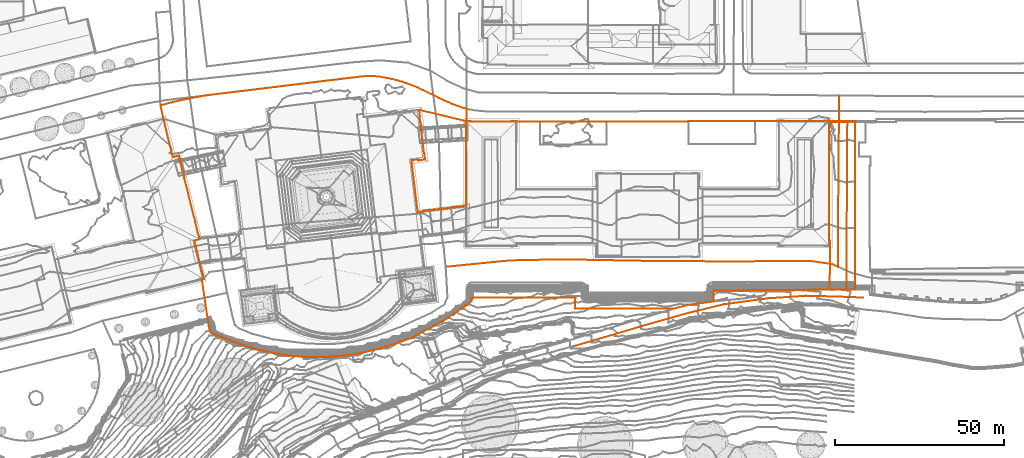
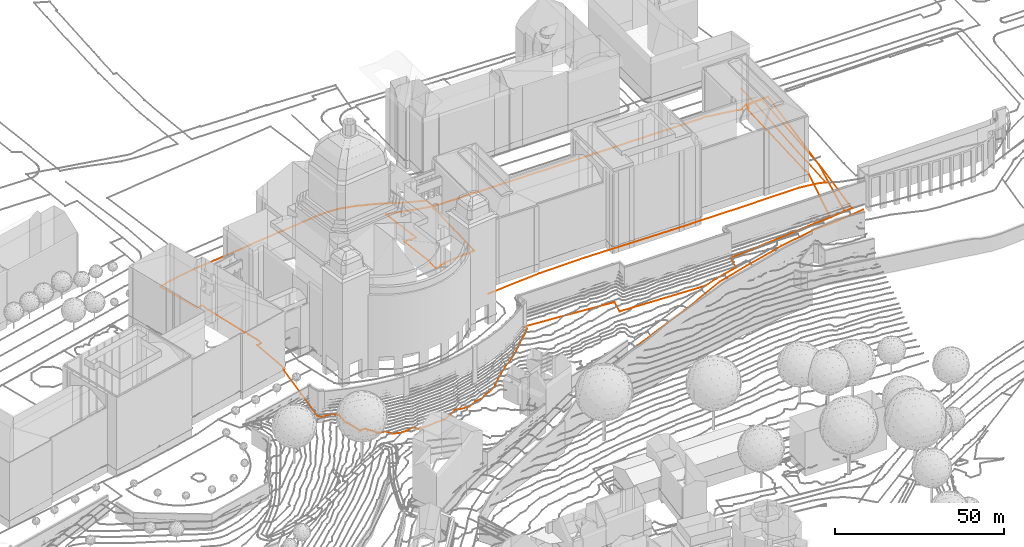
# Not in any storey, part 195 of 477: 6 civil elements, 1 geographic element.
"""IFC4 model written with IfcOpenShell, lengths in metres."""

import ifcopenshell
import ifcopenshell.guid

model = None  # the IFC model being written
_history = None  # IfcOwnerHistory: only IFC2X3 demands one
_inside = {}  # id of a spatial element -> (the spatial element, [elements in it])
_under = {}  # id of a project, library or spatial element -> (it, [spatial elements below it])
_declared = {}  # id of a project -> (the project, [libraries it declares])
_typed = {}  # id of a type object -> (the type object, [elements of that type])
_made_of = {}  # id of a material, layer set ... -> (it, [elements and type objects made of it])


def new_model(schema):
    """Start an empty IFC model of exactly this schema.

    Asked for "IFC4X3", IfcOpenShell would pick the latest addendum, in which some entities
    have other attributes; the version numbers below select the first issue.
    IFC2X3 requires an IfcOwnerHistory on every rooted entity: one is made here for all.
    """
    global model, _history
    if schema == "IFC4X3":
        model = ifcopenshell.file(schema_version=(4, 3, 0, 0))
    else:
        model = ifcopenshell.file(schema=schema)
    _inside.clear()
    _under.clear()
    _declared.clear()
    _typed.clear()
    _made_of.clear()
    _history = None
    if model.schema == "IFC2X3":
        org = make("IfcOrganization", Name="unknown")
        user = make(
            "IfcPersonAndOrganization",
            ThePerson=make("IfcPerson", FamilyName="unknown"),
            TheOrganization=org,
        )
        app = make(
            "IfcApplication",
            ApplicationDeveloper=org,
            Version="unknown",
            ApplicationFullName="unknown",
            ApplicationIdentifier="unknown",
        )
        _history = make(
            "IfcOwnerHistory",
            OwningUser=user,
            OwningApplication=app,
            ChangeAction="ADDED",
            CreationDate=0,
        )
    return model


def make(cls, **values):
    """One entity of the class cls with the attributes given. An attribute that is None is left unset."""
    return model.create_entity(
        cls, **{name: value for name, value in values.items() if value is not None}
    )


def entity(cls, *values):
    """Any entity or typed value of the class cls, its attributes in the order of the schema. None: left unset."""
    e = model.create_entity(cls)
    for i, value in enumerate(values):
        if value is not None:
            e[i] = value
    return e


def rooted(cls, **values):
    """An entity with a GlobalId (a new one), such as an element, a storey or a relation."""
    return make(cls, GlobalId=ifcopenshell.guid.new(), OwnerHistory=_history, **values)


def si_unit(unit_type, name, prefix=None):
    """IfcSIUnit, for example si_unit("LENGTHUNIT", "METRE", prefix="MILLI")."""
    return make("IfcSIUnit", UnitType=unit_type, Prefix=prefix, Name=name)


def assignment(units):
    """IfcUnitAssignment: the units of a project."""
    return None if units is None else make("IfcUnitAssignment", Units=units)


def point(xyz):
    """IfcCartesianPoint."""
    return None if xyz is None else make("IfcCartesianPoint", Coordinates=xyz)


def direction(xyz):
    """IfcDirection."""
    return None if xyz is None else make("IfcDirection", DirectionRatios=xyz)


def frame(location, z_axis=None, x_axis=None):
    """IfcAxis2Placement3D, a coordinate frame: its origin and axes. An axis left out is left unset."""
    return make(
        "IfcAxis2Placement3D",
        Location=point(location),
        Axis=direction(z_axis),
        RefDirection=direction(x_axis),
    )


def origin_with_axes():
    """The frame at (0, 0, 0) with the z axis (0, 0, 1) and the x axis (1, 0, 0) written out."""
    return frame((0.0, 0.0, 0.0), z_axis=(0.0, 0.0, 1.0), x_axis=(1.0, 0.0, 0.0))


def place(relative_to, where):
    """IfcLocalPlacement: puts the frame where relative to a parent placement (None: the world)."""
    return make(
        "IfcLocalPlacement", PlacementRelTo=relative_to, RelativePlacement=where
    )


def context(
    kind, dimensions, precision=None, world=None, true_north=None, identifier=None
):
    """IfcGeometricRepresentationContext, for example the 3D "Model" context."""
    return make(
        "IfcGeometricRepresentationContext",
        ContextIdentifier=identifier,
        ContextType=kind,
        CoordinateSpaceDimension=dimensions,
        Precision=precision,
        WorldCoordinateSystem=world,
        TrueNorth=true_north,
    )


def subcontext(parent, identifier, kind, view, scale=None):
    """IfcGeometricRepresentationSubContext, for example "Body" below "Model"."""
    return make(
        "IfcGeometricRepresentationSubContext",
        ContextIdentifier=identifier,
        ContextType=kind,
        ParentContext=parent,
        TargetScale=scale,
        TargetView=view,
    )


def project(units=None, contexts=None):
    """IfcProject with its units and contexts."""
    return rooted(
        "IfcProject",
        Name="project",
        RepresentationContexts=contexts,
        UnitsInContext=assignment(units),
    )


def spatial(cls, under=None, at=None, **own):
    """A site, building, storey or space (cls), placed at a placement, below another one or the project."""
    s = rooted(cls, ObjectPlacement=at, **own)
    if under is not None:
        _under.setdefault(under.id(), (under, []))[1].append(s)
    return s


def shape(context_of_items, identifier, shape_type, items):
    """IfcShapeRepresentation: the items that make up one representation, for example the "Body"."""
    return make(
        "IfcShapeRepresentation",
        ContextOfItems=context_of_items,
        RepresentationIdentifier=identifier,
        RepresentationType=shape_type,
        Items=items,
    )


def made_of(thing, what):
    """Note that an element or type object is made of a material, layer set ...; save() writes the relation."""
    if what is not None:
        _made_of.setdefault(what.id(), (what, []))[1].append(thing)
    return thing


def element(
    cls,
    number,
    at=None,
    inside=None,
    cuts=None,
    type_object=None,
    material=None,
    context=None,
    identifier="Body",
    shape_type=None,
    held_by="IfcProductDefinitionShape",
    body=None,
    shapes=None,
    **own,
):
    """One element of the class cls, such as IfcWall. Its Tag is "e" and its number.

    at: its placement. inside: the storey or other place that contains it. cuts: it is an
    opening in that element (IfcRelVoidsElement). A single representation is given by context,
    identifier, shape_type and body (its items); several are given by shapes. held_by: the class
    of the entity that holds the representations. save() writes the other relations.
    """
    e = rooted(cls, Tag="e%d" % number, ObjectPlacement=at, **own)
    if body is not None:
        shapes = [shape(context, identifier, shape_type, body)]
    if shapes is not None:
        e.Representation = make(held_by, Representations=shapes)
    if inside is not None:
        _inside.setdefault(inside.id(), (inside, []))[1].append(e)
    if cuts is not None:
        rooted(
            "IfcRelVoidsElement", RelatingBuildingElement=cuts, RelatedOpeningElement=e
        )
    if type_object is not None:
        _typed.setdefault(type_object.id(), (type_object, []))[1].append(e)
    return made_of(e, material)


def aggregate(whole, parts):
    """IfcRelAggregates: a whole, such as a stair, and the parts it consists of."""
    return rooted("IfcRelAggregates", RelatingObject=whole, RelatedObjects=parts)


def save(model, path):
    """Write the relations noted so far, then the file.

    IfcRelAggregates (storeys below a building ...), IfcRelContainedInSpatialStructure (elements
    in a storey), IfcRelDefinesByType, IfcRelAssociatesMaterial and IfcRelDeclares: one each for
    every whole, place, type object, material and project.
    """
    for whole, parts in _under.values():
        aggregate(whole, parts)
    for where, things in _inside.values():
        rooted(
            "IfcRelContainedInSpatialStructure",
            RelatedElements=things,
            RelatingStructure=where,
        )
    for kind, things in _typed.values():
        rooted("IfcRelDefinesByType", RelatedObjects=things, RelatingType=kind)
    for what, things in _made_of.values():
        rooted("IfcRelAssociatesMaterial", RelatedObjects=things, RelatingMaterial=what)
    for by, libraries in _declared.values():
        rooted("IfcRelDeclares", RelatingContext=by, RelatedDefinitions=libraries)
    model.write(path)


model = new_model("IFC4")

# Units and contexts
model_context = context("Model", 3, precision=1e-05, world=origin_with_axes())
body_context = subcontext(model_context, "Body", "Model", "MODEL_VIEW")
ifc_project = project(units=[si_unit("AREAUNIT", "SQUARE_METRE"), si_unit("LENGTHUNIT", "METRE")], contexts=[model_context])

# Sites
site_1_placement = place(None, origin_with_axes())
site_1 = spatial("IfcSite", under=ifc_project, at=site_1_placement, Name="Topoexport Site")
site_2_placement = place(site_1_placement, origin_with_axes())
site_2 = spatial("IfcSite", under=site_1, at=site_2_placement, Name="TPX_ROADS")

# Civil elements
civil_element_1_placement = place(site_2_placement, frame((605.3857320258, 343.1167327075, 521.97), z_axis=(0.0, 0.0, 1.0), x_axis=(1.0, 0.0, 0.0)))
element("IfcCivilElement", 1, at=civil_element_1_placement, inside=site_2, Name="Road 27", ObjectType="ROAD", context=body_context, shape_type="GeometricCurveSet", body=[
    entity("IfcGeometricCurveSet", [entity("IfcIndexedPolyCurve", entity("IfcCartesianPointList3D", [[0.0, 0.0, 0.0], [19.3819999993, 5.7279998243, 2.366], [33.7729999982, 9.8389997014, 5.149], [44.4510000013, 12.3989996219, 5.664], [57.5649999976, 14.167999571, 7.232], [68.5960000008, 14.8969995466, 8.486], [77.0260000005, 14.688999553, 9.123], [85.5599999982, 14.3769995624, 10.349]]))]),
])
civil_element_2_placement = place(site_2_placement, frame((683.4917320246, 366.5697319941, 539.193), z_axis=(0.0, 0.0, 1.0), x_axis=(1.0, 0.0, 0.0)))
element("IfcCivilElement", 2, at=civil_element_2_placement, inside=site_2, Name="Road 34", ObjectType="ROAD", context=body_context, shape_type="GeometricCurveSet", body=[
    entity("IfcGeometricCurveSet", [entity("IfcIndexedPolyCurve", entity("IfcCartesianPointList3D", [[0.0, 0.0, 0.0], [0.0859999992, 20.9669993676, 1.222], [0.262000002, 42.5919987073, 2.96], [0.2640000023, 50.6309984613, 3.155]]))]),
])
civil_element_3_placement = place(site_2_placement, frame((675.357732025, 368.3087319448, 539.193), z_axis=(0.0, 0.0, 1.0), x_axis=(1.0, 0.0, 0.0)))
element("IfcCivilElement", 3, at=civil_element_3_placement, inside=site_2, Name="Road 35", ObjectType="ROAD", context=body_context, shape_type="GeometricCurveSet", body=[
    entity("IfcGeometricCurveSet", [entity("IfcIndexedPolyCurve", entity("IfcCartesianPointList3D", [[0.0, 0.0, 0.0], [6.4510000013, -0.9699999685, 0.0], [8.1339999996, -1.7389999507, 0.0]]))]),
])
civil_element_4_placement = place(site_2_placement, frame((567.5617320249, 366.5807319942, 539.484), z_axis=(0.0, 0.0, 1.0), x_axis=(1.0, 0.0, 0.0)))
element("IfcCivilElement", 4, at=civil_element_4_placement, inside=site_2, Name="Road 193", ObjectType="ROAD", context=body_context, shape_type="GeometricCurveSet", body=[
    entity("IfcGeometricCurveSet", [entity("IfcIndexedPolyCurve", entity("IfcCartesianPointList3D", [[0.0, 0.0, 0.0], [19.0139999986, 1.8909999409, -0.291], [34.2290000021, 2.207999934, -0.291], [63.7899999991, 1.6629999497, -0.291], [86.5150000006, 1.5989999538, -0.291], [107.7960000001, 1.7279999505, -0.291]]))]),
])

# Site
site_3_placement = place(site_1_placement, origin_with_axes())
site_3 = spatial("IfcSite", under=site_1, at=site_3_placement, Name="TPX_ROADS_OUTLINES")

# Civil elements
civil_element_5_placement = place(site_3_placement, frame((557.4217320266, 398.1027160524, 542.8183355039), z_axis=(0.0, 0.0, 1.0), x_axis=(1.0, 0.0, 0.0)))
element("IfcCivilElement", 5, at=civil_element_5_placement, inside=site_3, Name="Roads Outline 41", ObjectType="ROAD", context=body_context, shape_type="GeometricCurveSet", body=[
    entity("IfcGeometricCurveSet", [entity("IfcIndexedPolyCurve", entity("IfcCartesianPointList3D", [[0.0, 0.0, 0.0], [2.0320000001, 0.236, 0.0039515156], [2.071, -0.058, 0.0014803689], [4.0580000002, 0.173, 0.0102820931], [3.8140000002, 2.1629999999, 0.0617243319], [3.719, 2.152, 0.0604411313], [3.358, 5.0970000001, 0.1121613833], [2.7800000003, 9.8049999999, 0.1841826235], [2.4070000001, 12.852, 0.1452810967], [2.5060000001, 12.8640000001, 0.1405928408], [2.2600000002, 14.8540000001, 0.0893084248], [15.963, 11.5330000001, 0.1007748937], [15.9590000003, 10.6440000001, 0.1038180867], [15.9709999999, 10.0319999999, 0.1059552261], [16.1070000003, 10.034, 0.1054882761], [16.1090000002, 9.665, 0.106863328], [16.1240000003, 7.01, 0.1141178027], [16.128, 5.8999999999, 0.1186452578], [16.0980000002, -13.4269999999, -0.7488889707], [15.2890000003, -13.5179999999, -0.7290250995], [15.301, -13.611, -0.7476557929], [13.4130000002, -13.8359999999, -0.6844900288], [13.4010000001, -13.7409999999, -0.6657376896], [12.307, -13.8770000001, -0.5726440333], [12.3149999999, -13.976, -0.5912786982], [11.7230000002, -14.048, -0.5144447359], [5.4700000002, -14.7919999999, -0.3845615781], [4.8840000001, -14.8559999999, -0.5246849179], [4.8700000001, -14.7620000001, -0.5082793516], [3.8030000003, -14.8899999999, -0.6959330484], [3.8160000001, -15.0190000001, -0.7154515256], [3.5320000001, -15.047, -0.7391307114], [3.486, -15.0560000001, -0.7429471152], [3.4890000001, -15.1769999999, -0.763911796], [1.844, -15.371, -0.829245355], [1.4640000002, -12.1950000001, -0.204273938], [0.0, 0.0, 0.0]]))]),
])
civil_element_6_placement = place(site_3_placement, frame((680.8657320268, 408.2987160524, 541.1576356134), z_axis=(0.0, 0.0, 1.0), x_axis=(1.0, 0.0, 0.0)))
element("IfcCivilElement", 6, at=civil_element_6_placement, inside=site_3, Name="Roads Outline 99", ObjectType="ROAD", context=body_context, shape_type="GeometricCurveSet", body=[
    entity("IfcGeometricCurveSet", [entity("IfcIndexedPolyCurve", entity("IfcCartesianPointList3D", [[0.0, 0.0, 0.0], [0.3999999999, 0.0009999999, 0.4254257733], [0.3999999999, 0.5009999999, 0.8379186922], [0.2000000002, 0.5, 0.6336866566], [0.199, 1.0220000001, 0.9736481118], [5.3790000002, 1.0330000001, 1.2621026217], [5.179, -33.1399999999, -1.4936482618], [5.0899999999, -48.409, -9.1633480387], [0.176, -48.4510000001, -9.6105220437], [0.2510000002, -35.5449999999, -1.5774985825], [0.2450000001, -34.02, -1.5249600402], [0.0449999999, -34.0209999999, -1.5177520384], [0.0, 0.0, 0.0]]))]),
])

# Site
site_4_placement = place(site_1_placement, origin_with_axes())
site_4 = spatial("IfcSite", under=site_1, at=site_4_placement, Name="TPX_CADASTRES")

# Geographic element
geographic_element_placement = place(site_4_placement, frame((483.2487320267, 414.3417160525, 542.7580482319), z_axis=(0.0, 0.0, 1.0), x_axis=(1.0, 0.0, 0.0)))
element("IfcGeographicElement", 7, at=geographic_element_placement, inside=site_4, Name="Cadastre 45", PredefinedType="NOTDEFINED", context=body_context, shape_type="GeometricCurveSet", body=[
    entity("IfcGeometricCurveSet", [entity("IfcIndexedPolyCurve", entity("IfcCartesianPointList3D", [[0.0, 0.0, 0.0], [3.3500000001, 0.8419999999, 0.0138647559], [6.719, 1.6069999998, -0.0067457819], [10.105, 2.294, -0.0096220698], [13.5049999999, 2.902, -0.0576532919], [58.48, 8.3729999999, -0.0057405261], [59.8560000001, 8.53, -0.058167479], [61.2379999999, 8.6069999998, -0.0725764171], [62.6230000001, 8.605, -0.0747764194], [64.0049999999, 8.523, -0.0613407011], [65.4390000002, 8.314, -0.0028222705], [66.8659999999, 8.058, 0.0104431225], [68.2830000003, 7.7549999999, -0.0553828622], [69.838, 7.368, -0.0147337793], [71.3769999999, 6.923, -0.0085167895], [72.898, 6.4199999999, -0.1160543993], [74.5049999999, 5.8189999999, -0.0456107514], [76.0870000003, 5.155, -0.0016394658], [77.6409999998, 4.4279999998, 0.0696917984], [82.412, 2.078, 0.0736572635], [83.6779999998, 1.4719999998, 0.0821574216], [84.9610000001, 0.9009999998, 0.0943667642], [86.2590000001, 0.368, 0.1525958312], [87.6529999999, -0.1600000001, 0.1571946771], [89.0630000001, -0.6459999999, 0.0949322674], [90.486, -1.0900000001, 0.0030488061], [90.5300000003, -4.713, 0.1595459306], [91.639, -4.706, 0.1572937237], [91.642, -4.8470000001, 0.1578624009], [103.7919999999, -4.844, 0.0914316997], [103.7940000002, -4.699, 0.0970099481], [105.2889999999, -4.6950000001, 0.0702488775], [105.2910000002, -4.845, 0.0692599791], [182.6460000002, -4.72, -0.2040830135], [182.6460000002, -4.5700000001, -0.2041746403], [184.1329999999, -4.5660000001, -0.2031488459], [184.1430000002, -4.719, -0.2011182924], [196.3059999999, -4.6950000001, -1.7056571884], [196.3130000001, -4.551, -1.6362175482], [197.8160000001, -4.5530000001, -0.3928984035], [197.8160000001, -4.7380000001, -0.4416574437], [205.2340000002, -4.7210000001, -0.3159705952], [205.2659999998, -54.4300000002, -10.5254803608], [163.4649999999, -54.7880000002, -13.6588349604], [163.48, -58.003, -15.1992461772], [155.861, -59.0190000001, -16.0577943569], [151.9509999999, -60.0690000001, -16.4666310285], [122.5240000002, -60.061, -15.4878486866], [122.6239999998, -56.791, -14.150309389], [91.9560000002, -56.7830000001, -12.1934063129], [91.9760000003, -57.9040000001, -12.3409897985], [90.2170000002, -59.314, -13.3559025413], [90.1069999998, -59.1540000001, -13.3340481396], [88.466, -60.385, -14.1924730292], [86.79, -61.568, -14.9890292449], [85.0789999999, -62.702, -15.851732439], [83.3370000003, -63.7850000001, -16.5759969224], [80.673, -65.2690000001, -17.157605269], [77.986, -66.713, -18.2983429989], [75.2779999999, -68.1160000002, -20.588512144], [75.3280000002, -68.236, -20.7468565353], [73.1490000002, -69.101, -21.3009065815], [70.9500000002, -69.915, -21.5342803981], [68.733, -70.6780000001, -21.9924107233], [66.4989999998, -71.389, -21.6295295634], [64.2489999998, -72.047, -22.2483035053], [62.3119999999, -72.537, -21.7159613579], [60.3629999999, -72.9710000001, -21.284203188], [58.4010000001, -73.3490000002, -20.4797754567], [56.4300000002, -73.672, -21.7150904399], [54.4500000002, -73.9380000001, -22.4454706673], [53.9160000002, -74.0020000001, -22.3889237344], [53.3820000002, -74.061, -22.290599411], [51.3790000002, -74.246, -22.1806400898], [49.372, -74.3740000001, -22.2938304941], [47.3620000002, -74.4440000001, -22.3489304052], [45.3510000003, -74.4570000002, -22.2669182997], [43.3399999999, -74.412, -21.0195641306], [41.3310000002, -74.3090000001, -21.6026768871], [39.0210000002, -74.0790000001, -21.8198365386], [36.7170000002, -73.7960000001, -21.2796598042], [34.4199999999, -73.459, -19.9829830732], [32.1320000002, -73.0690000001, -20.02607495], [32.142, -72.939, -19.9647992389], [30.3540000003, -72.581, -18.7721651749], [28.5789999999, -72.1580000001, -17.7522221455], [26.8220000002, -71.6710000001, -18.0045105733], [25.0830000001, -71.1200000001, -16.327245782], [23.017, -70.4280000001, -14.6854060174], [20.9709999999, -69.6810000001, -11.6805355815], [18.946, -68.878, -11.0126629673], [16.943, -68.02, -11.4180675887], [16.8730000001, -68.2, -12.0246320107], [14.8330000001, -67.2550000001, -11.1751376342], [14.1230000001, -64.04, -8.9731183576], [12.267, -51.5150000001, -2.9978263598], [12.8489999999, -51.371, -3.0886009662], [10.04, -40.0250000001, -0.5273983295], [11.628, -39.6310000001, -0.5173816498], [11.2000000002, -37.8830000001, -0.1623325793], [11.125, -37.8930000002, -0.1614735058], [10.298, -34.5430000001, -0.0735020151], [10.3670000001, -34.517, -0.0751692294], [9.997, -33.003, -0.0616121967], [9.9199999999, -33.023, -0.0593743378], [7.0619999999, -21.477, 0.1668667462], [7.1290000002, -21.4580000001, 0.1668260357], [6.7560000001, -19.946, 0.1848260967], [6.6880000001, -19.963, 0.184892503], [5.8569999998, -16.601, 0.2249319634], [5.9240000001, -16.584, 0.2248521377], [5.4960000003, -14.8500000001, 0.2528428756], [3.6740000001, -15.28, 0.2492238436], [1.3250000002, -5.8090000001, 0.1489773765], [1.3909999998, -5.7880000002, 0.1456366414], [0.9479999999, -4.0460000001, 0.1015648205], [0.0, 0.0, 0.0]]))]),
])

save(model, "model.ifc")
